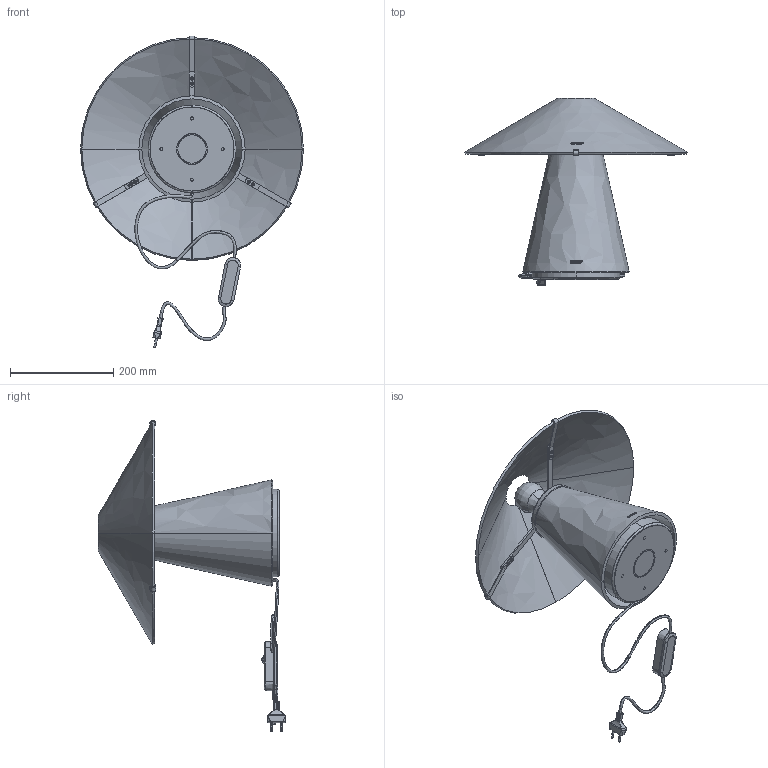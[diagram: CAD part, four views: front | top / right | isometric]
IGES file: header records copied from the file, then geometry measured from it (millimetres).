
Start section: SolidWorks IGES file using analytic representation for surfaces
Global section: file name: G:\Drive condivisi\Ufficio Tecnico\Prodotti\A07 UpGlass\Progetto\A07-T0\3D Step\UpGlas Table 1.IGS; native system: SolidWorks 2024; preprocessor: SolidWorks 2024; author: Tecnico01; date: 250605.094918; units: millimetre
Bounding box: 432.69 x 363.28 x 605.19 mm (x, y, z)
Surface area: 839218.7 mm2 (no closed solid volume)
Topology: 0 solids, 0 shells, 1299 faces, 18247 edges, 18230 vertices
Faces by surface type: bspline 791, revolution 508
